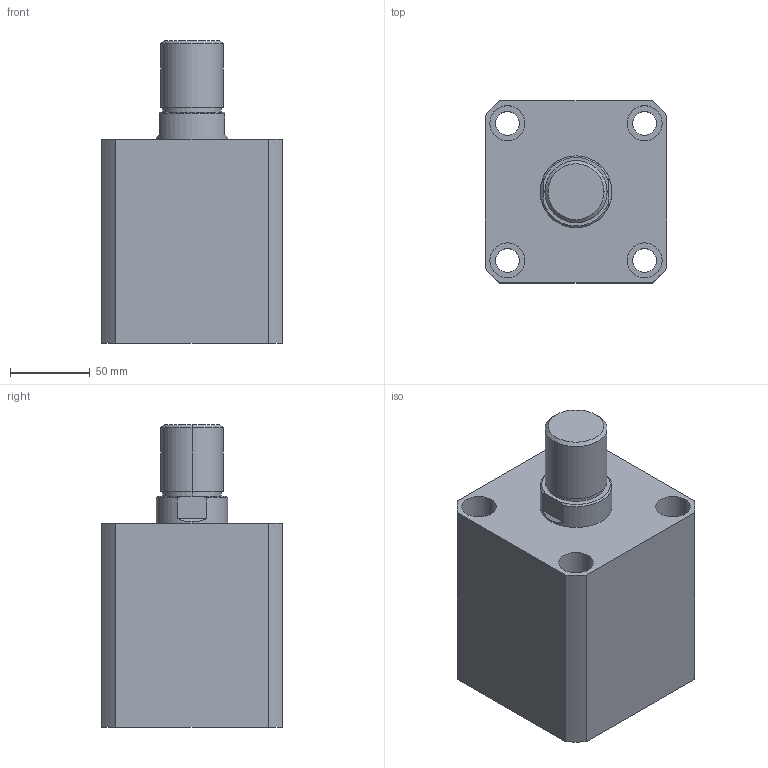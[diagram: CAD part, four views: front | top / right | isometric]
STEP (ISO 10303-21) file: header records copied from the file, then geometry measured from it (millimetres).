
FILE_DESCRIPTION (( 'STEP AP203' ), '1' );
FILE_NAME ('HTB-SDMB80-50W.STEP', '2019-10-09T06:06:06', ( '微软用户' ), ( '微软中国' ), 'SwSTEP 2.0', 'SolidWorks 2012', '' );
FILE_SCHEMA (( 'CONFIG_CONTROL_DESIGN' ));
Length unit declared in the file: millimetre
Products named in the file (3): HTB-SDMB80-50W; HTB-SDMB80-50掛极; HTB-SDMB80-50W活塞杆
Assembly tree (2 placements, depth 2):
  HTB-SDMB80-50W
    HTB-SDMB80-50掛极
    HTB-SDMB80-50W活塞杆
Bounding box: 114 x 114 x 190 mm (x, y, z)
Volume: 1435178.7 mm3; surface area: 176287 mm2
Topology: 2 solids, 2 shells, 141 faces, 337 edges, 222 vertices
Faces by surface type: plane 67, cylinder 48, bspline 16, torus 6, cone 4
Entity records: 5180 total; most frequent: CARTESIAN_POINT 1597, ORIENTED_EDGE 674, DIRECTION 669, EDGE_CURVE 337, AXIS2_PLACEMENT_3D 242, VERTEX_POINT 222, VECTOR 185, LINE 185
